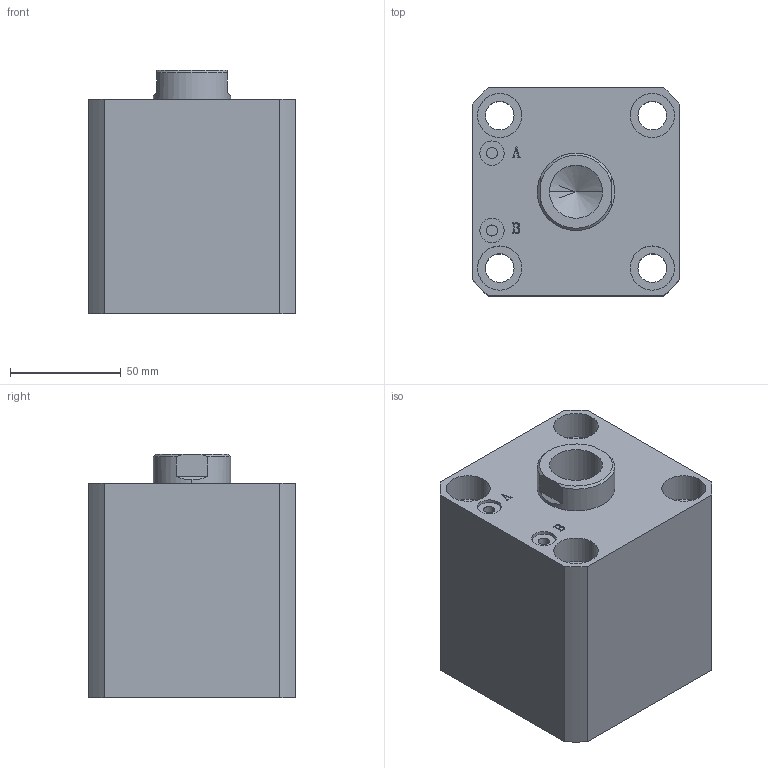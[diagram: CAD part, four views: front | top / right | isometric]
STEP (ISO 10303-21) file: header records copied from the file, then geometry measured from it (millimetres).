
FILE_DESCRIPTION (( 'STEP AP203' ), '1' );
FILE_NAME ('HTB-SDMA63-30N.STEP', '2019-10-08T01:03:02', ( '微软用户' ), ( '微软中国' ), 'SwSTEP 2.0', 'SolidWorks 2012', '' );
FILE_SCHEMA (( 'CONFIG_CONTROL_DESIGN' ));
Length unit declared in the file: millimetre
Products named in the file (3): HTB-SDMA63-30N; HTB-SDMA63-30N活塞杆; HTB-SDMA63-30掛极
Assembly tree (2 placements, depth 2):
  HTB-SDMA63-30N
    HTB-SDMA63-30掛极
    HTB-SDMA63-30N活塞杆
Bounding box: 94 x 94 x 110 mm (x, y, z)
Volume: 705046.9 mm3; surface area: 108330.3 mm2
Topology: 2 solids, 2 shells, 137 faces, 331 edges, 217 vertices
Faces by surface type: plane 65, cylinder 46, bspline 16, torus 6, cone 4
Entity records: 5070 total; most frequent: CARTESIAN_POINT 1576, ORIENTED_EDGE 658, DIRECTION 647, EDGE_CURVE 329, AXIS2_PLACEMENT_3D 232, VERTEX_POINT 217, LINE 183, VECTOR 183
